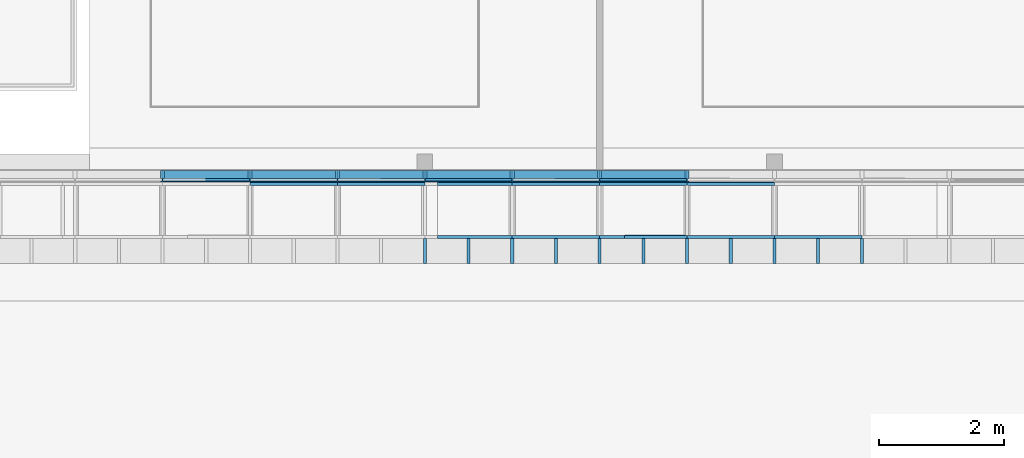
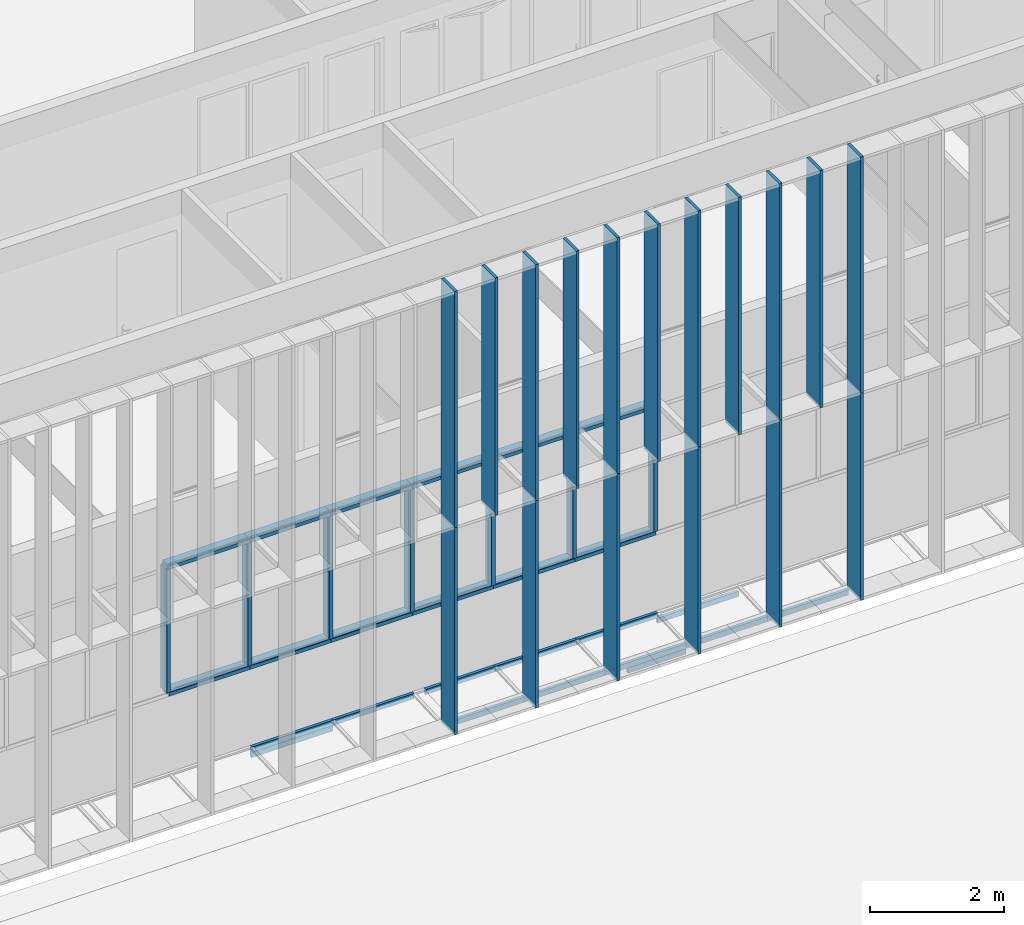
# One storey, part 5 of 106: 49 members, 3 elements without a shape of their own.
"""IFC2X3 building model written with IfcOpenShell, lengths in centimetres."""

from ifc_helpers import new_model, entity, si_unit, converted_unit, derived_unit, direction, frame, origin, origin_2d_with_axis, place, context, subcontext, project, spatial, polyline, rectangle, outline, extrude, source, transform, mapped, material, type_object, type_shapes, element, aggregate, save


model = new_model("IFC2X3")

# Units and contexts
model_context = context("Model", 3, precision=0.001, world=origin(), true_north=direction((6.12303176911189e-17, 1.0)))
body_context = subcontext(model_context, "Body", "Model", "MODEL_VIEW")
ifc_project = project(units=[si_unit("LENGTHUNIT", "METRE", prefix="CENTI"), si_unit("AREAUNIT", "SQUARE_METRE"), si_unit("VOLUMEUNIT", "CUBIC_METRE"), converted_unit("PLANEANGLEUNIT", "DEGREE", entity("IfcRatioMeasure", 0.0174532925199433), si_unit("PLANEANGLEUNIT", "RADIAN"), dimensions=[0, 0, 0, 0, 0, 0, 0]), si_unit("MASSUNIT", "GRAM", prefix="KILO"), derived_unit("MASSDENSITYUNIT", [(si_unit("MASSUNIT", "GRAM", prefix="KILO"), 1), (si_unit("LENGTHUNIT", "METRE"), -3)]), si_unit("TIMEUNIT", "SECOND"), si_unit("FREQUENCYUNIT", "HERTZ"), si_unit("THERMODYNAMICTEMPERATUREUNIT", "DEGREE_CELSIUS"), derived_unit("THERMALTRANSMITTANCEUNIT", [(si_unit("MASSUNIT", "GRAM", prefix="KILO"), 1), (si_unit("THERMODYNAMICTEMPERATUREUNIT", "KELVIN"), -1), (si_unit("TIMEUNIT", "SECOND"), -3)]), derived_unit("VOLUMETRICFLOWRATEUNIT", [(si_unit("LENGTHUNIT", "METRE"), 3), (si_unit("TIMEUNIT", "SECOND"), -1)]), si_unit("ELECTRICCURRENTUNIT", "AMPERE"), si_unit("ELECTRICVOLTAGEUNIT", "VOLT"), si_unit("POWERUNIT", "WATT"), si_unit("FORCEUNIT", "NEWTON", prefix="KILO"), si_unit("ILLUMINANCEUNIT", "LUX"), si_unit("LUMINOUSFLUXUNIT", "LUMEN"), si_unit("LUMINOUSINTENSITYUNIT", "CANDELA"), derived_unit("USERDEFINED", [(si_unit("MASSUNIT", "GRAM", prefix="KILO"), -1), (si_unit("LENGTHUNIT", "METRE"), -2), (si_unit("TIMEUNIT", "SECOND"), 3), (si_unit("LUMINOUSFLUXUNIT", "LUMEN"), 1)]), derived_unit("LINEARVELOCITYUNIT", [(si_unit("LENGTHUNIT", "METRE"), 1), (si_unit("TIMEUNIT", "SECOND"), -1)]), si_unit("PRESSUREUNIT", "PASCAL"), derived_unit("USERDEFINED", [(si_unit("LENGTHUNIT", "METRE"), -2), (si_unit("MASSUNIT", "GRAM", prefix="KILO"), 1), (si_unit("TIMEUNIT", "SECOND"), -2)])], contexts=[model_context])

# Site, building, storey
site_placement = place(None, frame((-2781.94577612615, 7442.24238424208, 0.0)))
site = spatial("IfcSite", under=ifc_project, at=site_placement, Name="Default", CompositionType="ELEMENT")
building_placement = place(site_placement, origin())
building = spatial("IfcBuilding", under=site, at=building_placement, CompositionType="ELEMENT")
storey_placement = place(building_placement, frame((0.0, 0.0, 422.0)))
storey = spatial("IfcBuildingStorey", under=building, at=storey_placement, Name="Toiture - Cuisine", CompositionType="ELEMENT", Elevation=421.999999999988)

# Roof, members
curtain_wall_type_1 = type_object("IfcCurtainWallType", Name="Vitres inclinées:Toit en verre 1 m x 2 m", PredefinedType="NOTDEFINED")
roof_placement = place(building_placement, origin())
roof = element("IfcRoof", 1, at=roof_placement, inside=storey, type_object=curtain_wall_type_1, Name="Vitres inclinées:Toit en verre 1 m x 2 m", ObjectType="Vitres inclinées:Toit en verre 1 m x 2 m", ShapeType="NOTDEFINED")
ifc_material_1 = material(Name="Plastique, blanc opaque")
member_type_1 = type_object("IfcMemberType", Name="100 x 50mm", PredefinedType="MEMBER")
shared_shape_1 = source(origin(), body_context, "Body", "SweptSolid", [
    extrude(rectangle(XDim=10.0, YDim=5.0, at=origin_2d_with_axis()), frame((-2.5, 0.0, -140.0), z_axis=(0.0, 0.0, 1.0), x_axis=(0.0, -1.0, 0.0)), (0.0, 0.0, 1.0), 140.0),
])
type_shapes(member_type_1, [shared_shape_1])
member_1_placement = place(building_placement, frame((-7709.49987763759, -1950.07903364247, 352.716700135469), z_axis=(-1.0, 0.0, 0.0), x_axis=(0.0, 0.998629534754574, 0.0523359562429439)))
member_1 = element("IfcMember", 2, at=member_1_placement, type_object=member_type_1, material=ifc_material_1, Name="Meneau rectangulaire:100 x 50mm", ObjectType="Meneau rectangulaire:100 x 50mm", context=body_context, shape_type="MappedRepresentation", body=[
    mapped(shared_shape_1, transform((0.0, 0.0, 0.0), scale=1.0)),
])
member_2_placement = place(building_placement, frame((-7569.49987763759, -1950.34071342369, 362.709847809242), z_axis=(-1.0, 0.0, 0.0), x_axis=(0.0, 0.998629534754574, 0.0523359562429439)))
member_2 = element("IfcMember", 3, at=member_2_placement, type_object=member_type_1, material=ifc_material_1, Name="Meneau rectangulaire:100 x 50mm", ObjectType="Meneau rectangulaire:100 x 50mm", context=body_context, shape_type="MappedRepresentation", body=[
    mapped(shared_shape_1, transform((0.0, 0.0, 0.0), scale=1.0)),
])
member_3_placement = place(building_placement, frame((-7289.49987763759, -1950.34071342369, 362.709847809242), z_axis=(-1.0, 0.0, 0.0), x_axis=(0.0, 0.998629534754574, 0.0523359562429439)))
member_3 = element("IfcMember", 4, at=member_3_placement, type_object=member_type_1, material=ifc_material_1, Name="Meneau rectangulaire:100 x 50mm", ObjectType="Meneau rectangulaire:100 x 50mm", context=body_context, shape_type="MappedRepresentation", body=[
    mapped(shared_shape_1, transform((0.0, 0.0, 0.0), scale=1.0)),
])
member_4_placement = place(building_placement, frame((-7149.49987763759, -1950.34071342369, 362.709847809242), z_axis=(-1.0, 0.0, 0.0), x_axis=(0.0, 0.998629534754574, 0.0523359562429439)))
member_4 = element("IfcMember", 5, at=member_4_placement, type_object=member_type_1, material=ifc_material_1, Name="Meneau rectangulaire:100 x 50mm", ObjectType="Meneau rectangulaire:100 x 50mm", context=body_context, shape_type="MappedRepresentation", body=[
    mapped(shared_shape_1, transform((0.0, 0.0, 0.0), scale=1.0)),
])
member_5_placement = place(building_placement, frame((-7009.49987763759, -1950.07903364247, 352.716700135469), z_axis=(-1.0, 0.0, 0.0), x_axis=(0.0, 0.998629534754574, 0.0523359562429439)))
member_5 = element("IfcMember", 6, at=member_5_placement, type_object=member_type_1, material=ifc_material_1, Name="Meneau rectangulaire:100 x 50mm", ObjectType="Meneau rectangulaire:100 x 50mm", context=body_context, shape_type="MappedRepresentation", body=[
    mapped(shared_shape_1, transform((0.0, 0.0, 0.0), scale=1.0)),
])
member_6_placement = place(building_placement, frame((-7709.49987763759, -1950.34071342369, 362.709847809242), z_axis=(-1.0, 0.0, 0.0), x_axis=(0.0, 0.998629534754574, 0.0523359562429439)))
member_6 = element("IfcMember", 7, at=member_6_placement, type_object=member_type_1, material=ifc_material_1, Name="Meneau rectangulaire:100 x 50mm", ObjectType="Meneau rectangulaire:100 x 50mm", context=body_context, shape_type="MappedRepresentation", body=[
    mapped(shared_shape_1, transform((0.0, 0.0, 0.0), scale=1.0)),
])
member_type_2 = type_object("IfcMemberType", Name="100 x 50mm", PredefinedType="MEMBER")
shared_shape_2 = source(origin(), body_context, "Body", "SweptSolid", [
    extrude(rectangle(XDim=10.0, YDim=5.0, at=origin_2d_with_axis()), frame((-2.5, 0.0, -140.0), z_axis=(0.0, 0.0, 1.0), x_axis=(0.0, -1.0, 0.0)), (0.0, 0.0, 1.0), 140.0),
])
type_shapes(member_type_2, [shared_shape_2])
member_7_placement = place(building_placement, frame((-7009.49987763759, -2040.34071342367, 357.99314767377), z_axis=(1.0, 0.0, 0.0), x_axis=(0.0, -0.998629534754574, -0.0523359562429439)))
member_7 = element("IfcMember", 8, at=member_7_placement, type_object=member_type_2, material=ifc_material_1, Name="Meneau rectangulaire:100 x 50mm", ObjectType="Meneau rectangulaire:100 x 50mm", context=body_context, shape_type="MappedRepresentation", body=[
    mapped(shared_shape_2, transform((0.0, 0.0, 0.0), scale=1.0)),
])
member_8_placement = place(building_placement, frame((-7149.49987763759, -2040.34071342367, 357.99314767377), z_axis=(1.0, 0.0, 0.0), x_axis=(0.0, -0.998629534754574, -0.0523359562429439)))
member_8 = element("IfcMember", 9, at=member_8_placement, type_object=member_type_2, material=ifc_material_1, Name="Meneau rectangulaire:100 x 50mm", ObjectType="Meneau rectangulaire:100 x 50mm", context=body_context, shape_type="MappedRepresentation", body=[
    mapped(shared_shape_2, transform((0.0, 0.0, 0.0), scale=1.0)),
])
member_9_placement = place(building_placement, frame((-6869.49987763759, -2040.34071342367, 357.99314767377), z_axis=(1.0, 0.0, 0.0), x_axis=(0.0, -0.998629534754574, -0.0523359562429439)))
member_9 = element("IfcMember", 10, at=member_9_placement, type_object=member_type_2, material=ifc_material_1, Name="Meneau rectangulaire:100 x 50mm", ObjectType="Meneau rectangulaire:100 x 50mm", context=body_context, shape_type="MappedRepresentation", body=[
    mapped(shared_shape_2, transform((0.0, 0.0, 0.0), scale=1.0)),
])
member_10_placement = place(building_placement, frame((-6729.49987763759, -2040.34071342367, 357.99314767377), z_axis=(1.0, 0.0, 0.0), x_axis=(0.0, -0.998629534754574, -0.0523359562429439)))
member_10 = element("IfcMember", 11, at=member_10_placement, type_object=member_type_2, material=ifc_material_1, Name="Meneau rectangulaire:100 x 50mm", ObjectType="Meneau rectangulaire:100 x 50mm", context=body_context, shape_type="MappedRepresentation", body=[
    mapped(shared_shape_2, transform((0.0, 0.0, 0.0), scale=1.0)),
])
member_type_3 = type_object("IfcMemberType", Name="100 x 50mm", PredefinedType="MEMBER")
shared_shape_3 = source(origin(), body_context, "Body", "SweptSolid", [
    extrude(rectangle(XDim=10.0, YDim=5.0, at=origin_2d_with_axis()), frame((-2.5, 0.0, -119.999835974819), z_axis=(0.0, 0.0, 1.0), x_axis=(0.0, -1.0, 0.0)), (0.0, 0.0, 1.0), 119.999835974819),
])
type_shapes(member_type_3, [shared_shape_3])
member_11_placement = place(building_placement, frame((-7409.49987763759, -1950.34071342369, 362.709847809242), z_axis=(-1.0, 0.0, 0.0), x_axis=(0.0, 0.998629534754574, 0.0523359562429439)))
member_11 = element("IfcMember", 12, at=member_11_placement, type_object=member_type_3, material=ifc_material_1, Name="Meneau rectangulaire:100 x 50mm", ObjectType="Meneau rectangulaire:100 x 50mm", context=body_context, shape_type="MappedRepresentation", body=[
    mapped(shared_shape_3, transform((0.0, 0.0, 0.0), scale=1.0)),
])
member_type_4 = type_object("IfcMemberType", Name="100 x 50mm", PredefinedType="MEMBER")
shared_shape_4 = source(origin(), body_context, "Body", "SweptSolid", [
    extrude(rectangle(XDim=10.0, YDim=5.0, at=origin_2d_with_axis()), frame((-2.5, 0.0, -100.0), z_axis=(0.0, 0.0, 1.0), x_axis=(0.0, -1.0, 0.0)), (0.0, 0.0, 1.0), 99.9999999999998),
])
type_shapes(member_type_4, [shared_shape_4])
member_12_placement = place(building_placement, frame((-7009.49987763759, -2040.07903364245, 348.0), z_axis=(1.0, 0.0, 0.0), x_axis=(0.0, -0.998629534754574, -0.0523359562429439)))
member_12 = element("IfcMember", 13, at=member_12_placement, type_object=member_type_4, material=ifc_material_1, Name="Meneau rectangulaire:100 x 50mm", ObjectType="Meneau rectangulaire:100 x 50mm", context=body_context, shape_type="MappedRepresentation", body=[
    mapped(shared_shape_4, transform((0.0, 0.0, 0.0), scale=1.0)),
])
member_type_5 = type_object("IfcMemberType", Name="100 x 50mm", PredefinedType="MEMBER")
shared_shape_5 = source(origin(), body_context, "Body", "SweptSolid", [
    extrude(rectangle(XDim=10.0, YDim=5.0, at=origin_2d_with_axis()), frame((-2.5, 0.0, -119.999835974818), z_axis=(0.0, 0.0, 1.0), x_axis=(0.0, -1.0, 0.0)), (0.0, 0.0, 1.0), 119.999835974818),
])
type_shapes(member_type_5, [shared_shape_5])
member_13_placement = place(building_placement, frame((-7289.49987763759, -2040.34071342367, 357.99314767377), z_axis=(1.0, 0.0, 0.0), x_axis=(0.0, -0.998629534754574, -0.0523359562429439)))
member_13 = element("IfcMember", 14, at=member_13_placement, type_object=member_type_5, material=ifc_material_1, Name="Meneau rectangulaire:100 x 50mm", ObjectType="Meneau rectangulaire:100 x 50mm", context=body_context, shape_type="MappedRepresentation", body=[
    mapped(shared_shape_5, transform((0.0, 0.0, 0.0), scale=1.0)),
])
aggregate(roof, [member_1, member_2, member_11, member_3, member_4, member_7, member_5, member_13, member_8, member_12, member_9, member_10, member_6])

# Curtain wall, members
curtain_wall_type_2 = type_object("IfcCurtainWallType", Name="Mur-rideau:07 - mur rideau trame 140 cm", PredefinedType="NOTDEFINED")
curtain_wall_1_placement = place(building_placement, origin())
curtain_wall_1 = element("IfcCurtainWall", 15, at=curtain_wall_1_placement, inside=storey, type_object=curtain_wall_type_2, Name="Mur-rideau:07 - mur rideau trame 140 cm", ObjectType="Mur-rideau:07 - mur rideau trame 140 cm")
ifc_material_2 = material(Name="Aluminium")
member_type_6 = type_object("IfcMemberType", Name="150 x 25mm Détails", PredefinedType="MEMBER")
shared_shape_6 = source(origin(), body_context, "Body", "SweptSolid", [
    extrude(outline(polyline([(-5.6666666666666, -3.24999999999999), (-3.66666666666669, -3.24999999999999), (-3.66666666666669, -0.868749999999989), (-0.166666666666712, -0.868749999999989), (-0.166666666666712, -3.25000000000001), (13.3333333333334, -3.25000000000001), (13.3333333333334, 3.24999999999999), (-0.16666666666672, 3.24999999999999), (-0.16666666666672, 0.868749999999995), (-3.66666666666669, 0.868749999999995), (-3.66666666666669, 3.25), (-5.6666666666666, 3.25), (-5.6666666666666, -3.24999999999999)])), frame((-3.24999999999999, -1.96666666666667, -140.0), z_axis=(0.0, 0.0, 1.0), x_axis=(0.0, -1.0, 0.0)), (0.0, 0.0, 1.0), 140.000000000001),
])
type_shapes(member_type_6, [shared_shape_6])
member_14_placement = place(building_placement, frame((-7709.49987763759, -1946.27903364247, 743.0), z_axis=(1.0, 0.0, 0.0), x_axis=(0.0, 0.0, 1.0)))
member_14 = element("IfcMember", 16, at=member_14_placement, type_object=member_type_6, material=ifc_material_2, Name="Meneau rectangulaire:150 x 25mm Détails", ObjectType="Meneau rectangulaire:150 x 25mm Détails", context=body_context, shape_type="MappedRepresentation", body=[
    mapped(shared_shape_6, transform((0.0, 0.0, 0.0), scale=1.0)),
])
member_15_placement = place(building_placement, frame((-7569.49987763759, -1946.27903364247, 743.0), z_axis=(1.0, 0.0, 0.0), x_axis=(0.0, 0.0, 1.0)))
member_15 = element("IfcMember", 17, at=member_15_placement, type_object=member_type_6, material=ifc_material_2, Name="Meneau rectangulaire:150 x 25mm Détails", ObjectType="Meneau rectangulaire:150 x 25mm Détails", context=body_context, shape_type="MappedRepresentation", body=[
    mapped(shared_shape_6, transform((0.0, 0.0, 0.0), scale=1.0)),
])
member_16_placement = place(building_placement, frame((-7429.49987763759, -1946.27903364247, 743.0), z_axis=(1.0, 0.0, 0.0), x_axis=(0.0, 0.0, 1.0)))
member_16 = element("IfcMember", 18, at=member_16_placement, type_object=member_type_6, material=ifc_material_2, Name="Meneau rectangulaire:150 x 25mm Détails", ObjectType="Meneau rectangulaire:150 x 25mm Détails", context=body_context, shape_type="MappedRepresentation", body=[
    mapped(shared_shape_6, transform((0.0, 0.0, 0.0), scale=1.0)),
])
member_17_placement = place(building_placement, frame((-7289.49987763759, -1946.27903364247, 743.0), z_axis=(1.0, 0.0, 0.0), x_axis=(0.0, 0.0, 1.0)))
member_17 = element("IfcMember", 19, at=member_17_placement, type_object=member_type_6, material=ifc_material_2, Name="Meneau rectangulaire:150 x 25mm Détails", ObjectType="Meneau rectangulaire:150 x 25mm Détails", context=body_context, shape_type="MappedRepresentation", body=[
    mapped(shared_shape_6, transform((0.0, 0.0, 0.0), scale=1.0)),
])
member_18_placement = place(building_placement, frame((-7149.49987763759, -1946.27903364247, 743.0), z_axis=(1.0, 0.0, 0.0), x_axis=(0.0, 0.0, 1.0)))
member_18 = element("IfcMember", 20, at=member_18_placement, type_object=member_type_6, material=ifc_material_2, Name="Meneau rectangulaire:150 x 25mm Détails", ObjectType="Meneau rectangulaire:150 x 25mm Détails", context=body_context, shape_type="MappedRepresentation", body=[
    mapped(shared_shape_6, transform((0.0, 0.0, 0.0), scale=1.0)),
])
member_19_placement = place(building_placement, frame((-7009.49987763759, -1946.27903364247, 743.0), z_axis=(1.0, 0.0, 0.0), x_axis=(0.0, 0.0, 1.0)))
member_19 = element("IfcMember", 21, at=member_19_placement, type_object=member_type_6, material=ifc_material_2, Name="Meneau rectangulaire:150 x 25mm Détails", ObjectType="Meneau rectangulaire:150 x 25mm Détails", context=body_context, shape_type="MappedRepresentation", body=[
    mapped(shared_shape_6, transform((0.0, 0.0, 0.0), scale=1.0)),
])
member_type_7 = type_object("IfcMemberType", Name="150 x 25mm Détails", PredefinedType="MEMBER")
shared_shape_7 = source(origin(), body_context, "Body", "SweptSolid", [
    extrude(outline(polyline([(-5.66666666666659, -3.25), (-3.66666666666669, -3.25), (-3.66666666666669, -0.868749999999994), (-0.166666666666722, -0.868749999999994), (-0.166666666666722, -3.25000000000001), (13.3333333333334, -3.24999999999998), (13.3333333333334, 3.25000000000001), (-0.166666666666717, 3.25000000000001), (-0.166666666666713, 0.868749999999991), (-3.66666666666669, 0.868749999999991), (-3.66666666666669, 3.24999999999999), (-5.66666666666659, 3.24999999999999), (-5.66666666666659, -3.25)])), frame((-3.24999999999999, -1.96666666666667, -140.0), z_axis=(0.0, 0.0, 1.0), x_axis=(0.0, -1.0, 0.0)), (0.0, 0.0, 1.0), 140.000000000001),
])
type_shapes(member_type_7, [shared_shape_7])
member_20_placement = place(building_placement, frame((-7849.49987763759, -1946.27903364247, 505.5), z_axis=(-1.0, 0.0, 0.0), x_axis=(0.0, 0.0, -1.0)))
member_20 = element("IfcMember", 22, at=member_20_placement, type_object=member_type_7, material=ifc_material_2, Name="Meneau rectangulaire:150 x 25mm Détails", ObjectType="Meneau rectangulaire:150 x 25mm Détails", context=body_context, shape_type="MappedRepresentation", body=[
    mapped(shared_shape_7, transform((0.0, 0.0, 0.0), scale=1.0)),
])
member_21_placement = place(building_placement, frame((-7709.49987763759, -1946.27903364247, 505.5), z_axis=(-1.0, 0.0, 0.0), x_axis=(0.0, 0.0, -1.0)))
member_21 = element("IfcMember", 23, at=member_21_placement, type_object=member_type_7, material=ifc_material_2, Name="Meneau rectangulaire:150 x 25mm Détails", ObjectType="Meneau rectangulaire:150 x 25mm Détails", context=body_context, shape_type="MappedRepresentation", body=[
    mapped(shared_shape_7, transform((0.0, 0.0, 0.0), scale=1.0)),
])
member_22_placement = place(building_placement, frame((-7569.49987763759, -1946.27903364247, 505.5), z_axis=(-1.0, 0.0, 0.0), x_axis=(0.0, 0.0, -1.0)))
member_22 = element("IfcMember", 24, at=member_22_placement, type_object=member_type_7, material=ifc_material_2, Name="Meneau rectangulaire:150 x 25mm Détails", ObjectType="Meneau rectangulaire:150 x 25mm Détails", context=body_context, shape_type="MappedRepresentation", body=[
    mapped(shared_shape_7, transform((0.0, 0.0, 0.0), scale=1.0)),
])
member_23_placement = place(building_placement, frame((-7429.49987763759, -1946.27903364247, 505.5), z_axis=(-1.0, 0.0, 0.0), x_axis=(0.0, 0.0, -1.0)))
member_23 = element("IfcMember", 25, at=member_23_placement, type_object=member_type_7, material=ifc_material_2, Name="Meneau rectangulaire:150 x 25mm Détails", ObjectType="Meneau rectangulaire:150 x 25mm Détails", context=body_context, shape_type="MappedRepresentation", body=[
    mapped(shared_shape_7, transform((0.0, 0.0, 0.0), scale=1.0)),
])
member_24_placement = place(building_placement, frame((-7289.49987763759, -1946.27903364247, 505.5), z_axis=(-1.0, 0.0, 0.0), x_axis=(0.0, 0.0, -1.0)))
member_24 = element("IfcMember", 26, at=member_24_placement, type_object=member_type_7, material=ifc_material_2, Name="Meneau rectangulaire:150 x 25mm Détails", ObjectType="Meneau rectangulaire:150 x 25mm Détails", context=body_context, shape_type="MappedRepresentation", body=[
    mapped(shared_shape_7, transform((0.0, 0.0, 0.0), scale=1.0)),
])
member_25_placement = place(building_placement, frame((-7149.49987763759, -1946.27903364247, 505.5), z_axis=(-1.0, 0.0, 0.0), x_axis=(0.0, 0.0, -1.0)))
member_25 = element("IfcMember", 27, at=member_25_placement, type_object=member_type_7, material=ifc_material_2, Name="Meneau rectangulaire:150 x 25mm Détails", ObjectType="Meneau rectangulaire:150 x 25mm Détails", context=body_context, shape_type="MappedRepresentation", body=[
    mapped(shared_shape_7, transform((0.0, 0.0, 0.0), scale=1.0)),
])
member_type_8 = type_object("IfcMemberType", Name="150 x 25mm Détails", PredefinedType="MEMBER")
shared_shape_8 = source(origin(), body_context, "Body", "SweptSolid", [
    extrude(outline(polyline([(-5.6666666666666, -3.24999999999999), (-3.66666666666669, -3.24999999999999), (-3.66666666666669, -0.86874999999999), (-0.166666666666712, -0.86874999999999), (-0.166666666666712, -3.25000000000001), (13.3333333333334, -3.25000000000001), (13.3333333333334, 3.24999999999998), (-0.16666666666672, 3.24999999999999), (-0.16666666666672, 0.868749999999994), (-3.66666666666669, 0.868749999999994), (-3.66666666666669, 3.25), (-5.6666666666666, 3.25), (-5.6666666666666, -3.24999999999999)])), frame((0.0, -1.96666666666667, -224.5), z_axis=(0.0, 0.0, 1.0), x_axis=(0.0, -1.0, 0.0)), (0.0, 0.0, 1.0), 224.5),
])
type_shapes(member_type_8, [shared_shape_8])
member_26_placement = place(building_placement, frame((-7849.49987763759, -1946.27903364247, 512.0), z_axis=(0.0, 0.0, -1.0), x_axis=(1.0, 0.0, 0.0)))
member_26 = element("IfcMember", 28, at=member_26_placement, type_object=member_type_8, material=ifc_material_2, Name="Meneau rectangulaire:150 x 25mm Détails", ObjectType="Meneau rectangulaire:150 x 25mm Détails", context=body_context, shape_type="MappedRepresentation", body=[
    mapped(shared_shape_8, transform((0.0, 0.0, 0.0), scale=1.0)),
])
member_27_placement = place(building_placement, frame((-7709.49987763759, -1946.27903364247, 512.0), z_axis=(0.0, 0.0, -1.0), x_axis=(1.0, 0.0, 0.0)))
member_27 = element("IfcMember", 29, at=member_27_placement, type_object=member_type_8, material=ifc_material_2, Name="Meneau rectangulaire:150 x 25mm Détails", ObjectType="Meneau rectangulaire:150 x 25mm Détails", context=body_context, shape_type="MappedRepresentation", body=[
    mapped(shared_shape_8, transform((0.0, 0.0, 0.0), scale=1.0)),
])
member_28_placement = place(building_placement, frame((-7569.49987763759, -1946.27903364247, 512.0), z_axis=(0.0, 0.0, -1.0), x_axis=(1.0, 0.0, 0.0)))
member_28 = element("IfcMember", 30, at=member_28_placement, type_object=member_type_8, material=ifc_material_2, Name="Meneau rectangulaire:150 x 25mm Détails", ObjectType="Meneau rectangulaire:150 x 25mm Détails", context=body_context, shape_type="MappedRepresentation", body=[
    mapped(shared_shape_8, transform((0.0, 0.0, 0.0), scale=1.0)),
])
member_29_placement = place(building_placement, frame((-7429.49987763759, -1946.27903364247, 512.0), z_axis=(0.0, 0.0, -1.0), x_axis=(1.0, 0.0, 0.0)))
member_29 = element("IfcMember", 31, at=member_29_placement, type_object=member_type_8, material=ifc_material_2, Name="Meneau rectangulaire:150 x 25mm Détails", ObjectType="Meneau rectangulaire:150 x 25mm Détails", context=body_context, shape_type="MappedRepresentation", body=[
    mapped(shared_shape_8, transform((0.0, 0.0, 0.0), scale=1.0)),
])
member_30_placement = place(building_placement, frame((-7289.49987763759, -1946.27903364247, 512.0), z_axis=(0.0, 0.0, -1.0), x_axis=(1.0, 0.0, 0.0)))
member_30 = element("IfcMember", 32, at=member_30_placement, type_object=member_type_8, material=ifc_material_2, Name="Meneau rectangulaire:150 x 25mm Détails", ObjectType="Meneau rectangulaire:150 x 25mm Détails", context=body_context, shape_type="MappedRepresentation", body=[
    mapped(shared_shape_8, transform((0.0, 0.0, 0.0), scale=1.0)),
])
member_31_placement = place(building_placement, frame((-7149.49987763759, -1946.27903364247, 512.0), z_axis=(0.0, 0.0, -1.0), x_axis=(1.0, 0.0, 0.0)))
member_31 = element("IfcMember", 33, at=member_31_placement, type_object=member_type_8, material=ifc_material_2, Name="Meneau rectangulaire:150 x 25mm Détails", ObjectType="Meneau rectangulaire:150 x 25mm Détails", context=body_context, shape_type="MappedRepresentation", body=[
    mapped(shared_shape_8, transform((0.0, 0.0, 0.0), scale=1.0)),
])
member_32_placement = place(building_placement, frame((-7009.49987763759, -1946.27903364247, 512.0), z_axis=(0.0, 0.0, -1.0), x_axis=(1.0, 0.0, 0.0)))
member_32 = element("IfcMember", 34, at=member_32_placement, type_object=member_type_8, material=ifc_material_2, Name="Meneau rectangulaire:150 x 25mm Détails", ObjectType="Meneau rectangulaire:150 x 25mm Détails", context=body_context, shape_type="MappedRepresentation", body=[
    mapped(shared_shape_8, transform((0.0, 0.0, 0.0), scale=1.0)),
])
aggregate(curtain_wall_1, [member_14, member_15, member_16, member_17, member_18, member_19, member_20, member_21, member_22, member_23, member_24, member_25, member_26, member_27, member_28, member_29, member_30, member_31, member_32])

curtain_wall_type_3 = type_object("IfcCurtainWallType", Name="Mur-rideau:Epines - 400x30mm", PredefinedType="NOTDEFINED")
curtain_wall_2_placement = place(building_placement, origin())
curtain_wall_2 = element("IfcCurtainWall", 35, at=curtain_wall_2_placement, inside=storey, type_object=curtain_wall_type_3, Name="Mur-rideau:Epines - 400x30mm", ObjectType="Mur-rideau:Epines - 400x30mm")
member_type_9 = type_object("IfcMemberType", Name="Epine sud (400x50 mm)", PredefinedType="MEMBER")
shared_shape_9 = source(origin(), body_context, "Body", "SweptSolid", [
    extrude(rectangle(XDim=40.0, YDim=5.0, at=origin_2d_with_axis()), frame((0.0, 0.0, -377.950708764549), z_axis=(0.0, 0.0, 1.0), x_axis=(0.0, -1.0, 0.0)), (0.0, 0.0, 1.0), 377.950708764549),
])
type_shapes(member_type_9, [shared_shape_9])
member_33_placement = place(building_placement, frame((-7009.49987763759, -2060.07903364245, 367.449291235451), z_axis=(0.0, 0.0, -1.0), x_axis=(1.0, 0.0, 0.0)))
member_33 = element("IfcMember", 36, at=member_33_placement, type_object=member_type_9, material=ifc_material_2, Name="Meneau rectangulaire:Epine sud (400x50 mm)", ObjectType="Meneau rectangulaire:Epine sud (400x50 mm)", context=body_context, shape_type="MappedRepresentation", body=[
    mapped(shared_shape_9, transform((0.0, 0.0, 0.0), scale=1.0)),
])
member_34_placement = place(building_placement, frame((-6869.49987763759, -2060.07903364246, 367.449291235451), z_axis=(0.0, 0.0, -1.0), x_axis=(1.0, 0.0, 0.0)))
member_34 = element("IfcMember", 37, at=member_34_placement, type_object=member_type_9, material=ifc_material_2, Name="Meneau rectangulaire:Epine sud (400x50 mm)", ObjectType="Meneau rectangulaire:Epine sud (400x50 mm)", context=body_context, shape_type="MappedRepresentation", body=[
    mapped(shared_shape_9, transform((0.0, 0.0, 0.0), scale=1.0)),
])
member_35_placement = place(building_placement, frame((-6729.49987763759, -2060.07903364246, 367.449291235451), z_axis=(0.0, 0.0, -1.0), x_axis=(1.0, 0.0, 0.0)))
member_35 = element("IfcMember", 38, at=member_35_placement, type_object=member_type_9, material=ifc_material_2, Name="Meneau rectangulaire:Epine sud (400x50 mm)", ObjectType="Meneau rectangulaire:Epine sud (400x50 mm)", context=body_context, shape_type="MappedRepresentation", body=[
    mapped(shared_shape_9, transform((0.0, 0.0, 0.0), scale=1.0)),
])
member_36_placement = place(building_placement, frame((-7429.49987763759, -2060.07903364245, 367.449291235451), z_axis=(0.0, 0.0, -1.0), x_axis=(1.0, 0.0, 0.0)))
member_36 = element("IfcMember", 39, at=member_36_placement, type_object=member_type_9, material=ifc_material_2, Name="Meneau rectangulaire:Epine sud (400x50 mm)", ObjectType="Meneau rectangulaire:Epine sud (400x50 mm)", context=body_context, shape_type="MappedRepresentation", body=[
    mapped(shared_shape_9, transform((0.0, 0.0, 0.0), scale=1.0)),
])
member_37_placement = place(building_placement, frame((-7289.49987763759, -2060.07903364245, 367.449291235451), z_axis=(0.0, 0.0, -1.0), x_axis=(1.0, 0.0, 0.0)))
member_37 = element("IfcMember", 40, at=member_37_placement, type_object=member_type_9, material=ifc_material_2, Name="Meneau rectangulaire:Epine sud (400x50 mm)", ObjectType="Meneau rectangulaire:Epine sud (400x50 mm)", context=body_context, shape_type="MappedRepresentation", body=[
    mapped(shared_shape_9, transform((0.0, 0.0, 0.0), scale=1.0)),
])
member_38_placement = place(building_placement, frame((-7149.49987763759, -2060.07903364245, 367.449291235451), z_axis=(0.0, 0.0, -1.0), x_axis=(1.0, 0.0, 0.0)))
member_38 = element("IfcMember", 41, at=member_38_placement, type_object=member_type_9, material=ifc_material_2, Name="Meneau rectangulaire:Epine sud (400x50 mm)", ObjectType="Meneau rectangulaire:Epine sud (400x50 mm)", context=body_context, shape_type="MappedRepresentation", body=[
    mapped(shared_shape_9, transform((0.0, 0.0, 0.0), scale=1.0)),
])
member_type_10 = type_object("IfcMemberType", Name="Epine sud (400x50 mm)", PredefinedType="MEMBER")
shared_shape_10 = source(origin(), body_context, "Body", "SweptSolid", [
    extrude(rectangle(XDim=40.0, YDim=5.0, at=origin_2d_with_axis()), frame((0.0, 0.0, -430.600000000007), z_axis=(0.0, 0.0, 1.0), x_axis=(0.0, -1.0, 0.0)), (0.0, 0.0, 1.0), 430.600000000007),
])
type_shapes(member_type_10, [shared_shape_10])
member_39_placement = place(building_placement, frame((-7009.49987763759, -2060.07903364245, 745.4), z_axis=(0.0, 0.0, -1.0), x_axis=(1.0, 0.0, 0.0)))
member_39 = element("IfcMember", 42, at=member_39_placement, type_object=member_type_10, material=ifc_material_2, Name="Meneau rectangulaire:Epine sud (400x50 mm)", ObjectType="Meneau rectangulaire:Epine sud (400x50 mm)", context=body_context, shape_type="MappedRepresentation", body=[
    mapped(shared_shape_10, transform((0.0, 0.0, 0.0), scale=1.0)),
])
member_40_placement = place(building_placement, frame((-6869.49987763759, -2060.07903364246, 745.4), z_axis=(0.0, 0.0, -1.0), x_axis=(1.0, 0.0, 0.0)))
member_40 = element("IfcMember", 43, at=member_40_placement, type_object=member_type_10, material=ifc_material_2, Name="Meneau rectangulaire:Epine sud (400x50 mm)", ObjectType="Meneau rectangulaire:Epine sud (400x50 mm)", context=body_context, shape_type="MappedRepresentation", body=[
    mapped(shared_shape_10, transform((0.0, 0.0, 0.0), scale=1.0)),
])
member_41_placement = place(building_placement, frame((-6729.49987763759, -2060.07903364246, 745.4), z_axis=(0.0, 0.0, -1.0), x_axis=(1.0, 0.0, 0.0)))
member_41 = element("IfcMember", 44, at=member_41_placement, type_object=member_type_10, material=ifc_material_2, Name="Meneau rectangulaire:Epine sud (400x50 mm)", ObjectType="Meneau rectangulaire:Epine sud (400x50 mm)", context=body_context, shape_type="MappedRepresentation", body=[
    mapped(shared_shape_10, transform((0.0, 0.0, 0.0), scale=1.0)),
])
member_42_placement = place(building_placement, frame((-7429.49987763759, -2060.07903364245, 745.4), z_axis=(0.0, 0.0, -1.0), x_axis=(1.0, 0.0, 0.0)))
member_42 = element("IfcMember", 45, at=member_42_placement, type_object=member_type_10, material=ifc_material_2, Name="Meneau rectangulaire:Epine sud (400x50 mm)", ObjectType="Meneau rectangulaire:Epine sud (400x50 mm)", context=body_context, shape_type="MappedRepresentation", body=[
    mapped(shared_shape_10, transform((0.0, 0.0, 0.0), scale=1.0)),
])
member_43_placement = place(building_placement, frame((-7289.49987763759, -2060.07903364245, 745.4), z_axis=(0.0, 0.0, -1.0), x_axis=(1.0, 0.0, 0.0)))
member_43 = element("IfcMember", 46, at=member_43_placement, type_object=member_type_10, material=ifc_material_2, Name="Meneau rectangulaire:Epine sud (400x50 mm)", ObjectType="Meneau rectangulaire:Epine sud (400x50 mm)", context=body_context, shape_type="MappedRepresentation", body=[
    mapped(shared_shape_10, transform((0.0, 0.0, 0.0), scale=1.0)),
])
member_44_placement = place(building_placement, frame((-7149.49987763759, -2060.07903364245, 745.4), z_axis=(0.0, 0.0, -1.0), x_axis=(1.0, 0.0, 0.0)))
member_44 = element("IfcMember", 47, at=member_44_placement, type_object=member_type_10, material=ifc_material_2, Name="Meneau rectangulaire:Epine sud (400x50 mm)", ObjectType="Meneau rectangulaire:Epine sud (400x50 mm)", context=body_context, shape_type="MappedRepresentation", body=[
    mapped(shared_shape_10, transform((0.0, 0.0, 0.0), scale=1.0)),
])
member_type_11 = type_object("IfcMemberType", Name="Epine sud (400x50 mm)", PredefinedType="MEMBER")
shared_shape_11 = source(origin(), body_context, "Body", "SweptSolid", [
    extrude(rectangle(XDim=40.0, YDim=5.0, at=origin_2d_with_axis()), frame((0.0, 0.0, -433.100000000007), z_axis=(0.0, 0.0, 1.0), x_axis=(0.0, -1.0, 0.0)), (0.0, 0.0, 1.0), 433.100000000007),
])
type_shapes(member_type_11, [shared_shape_11])
member_45_placement = place(building_placement, frame((-7359.49987763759, -2060.07903364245, 742.9), z_axis=(0.0, 0.0, -1.0), x_axis=(1.0, 0.0, 0.0)))
member_45 = element("IfcMember", 48, at=member_45_placement, type_object=member_type_11, material=ifc_material_2, Name="Meneau rectangulaire:Epine sud (400x50 mm)", ObjectType="Meneau rectangulaire:Epine sud (400x50 mm)", context=body_context, shape_type="MappedRepresentation", body=[
    mapped(shared_shape_11, transform((0.0, 0.0, 0.0), scale=1.0)),
])
member_46_placement = place(building_placement, frame((-7219.49987763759, -2060.07903364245, 742.9), z_axis=(0.0, 0.0, -1.0), x_axis=(1.0, 0.0, 0.0)))
member_46 = element("IfcMember", 49, at=member_46_placement, type_object=member_type_11, material=ifc_material_2, Name="Meneau rectangulaire:Epine sud (400x50 mm)", ObjectType="Meneau rectangulaire:Epine sud (400x50 mm)", context=body_context, shape_type="MappedRepresentation", body=[
    mapped(shared_shape_11, transform((0.0, 0.0, 0.0), scale=1.0)),
])
member_47_placement = place(building_placement, frame((-7079.49987763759, -2060.07903364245, 742.9), z_axis=(0.0, 0.0, -1.0), x_axis=(1.0, 0.0, 0.0)))
member_47 = element("IfcMember", 50, at=member_47_placement, type_object=member_type_11, material=ifc_material_2, Name="Meneau rectangulaire:Epine sud (400x50 mm)", ObjectType="Meneau rectangulaire:Epine sud (400x50 mm)", context=body_context, shape_type="MappedRepresentation", body=[
    mapped(shared_shape_11, transform((0.0, 0.0, 0.0), scale=1.0)),
])
member_48_placement = place(building_placement, frame((-6939.49987763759, -2060.07903364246, 742.9), z_axis=(0.0, 0.0, -1.0), x_axis=(1.0, 0.0, 0.0)))
member_48 = element("IfcMember", 51, at=member_48_placement, type_object=member_type_11, material=ifc_material_2, Name="Meneau rectangulaire:Epine sud (400x50 mm)", ObjectType="Meneau rectangulaire:Epine sud (400x50 mm)", context=body_context, shape_type="MappedRepresentation", body=[
    mapped(shared_shape_11, transform((0.0, 0.0, 0.0), scale=1.0)),
])
member_49_placement = place(building_placement, frame((-6799.49987763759, -2060.07903364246, 742.9), z_axis=(0.0, 0.0, -1.0), x_axis=(1.0, 0.0, 0.0)))
member_49 = element("IfcMember", 52, at=member_49_placement, type_object=member_type_11, material=ifc_material_2, Name="Meneau rectangulaire:Epine sud (400x50 mm)", ObjectType="Meneau rectangulaire:Epine sud (400x50 mm)", context=body_context, shape_type="MappedRepresentation", body=[
    mapped(shared_shape_11, transform((0.0, 0.0, 0.0), scale=1.0)),
])
aggregate(curtain_wall_2, [member_33, member_34, member_39, member_40, member_41, member_35, member_42, member_36, member_43, member_37, member_44, member_38, member_45, member_46, member_47, member_48, member_49])

save(model, "model.ifc")
